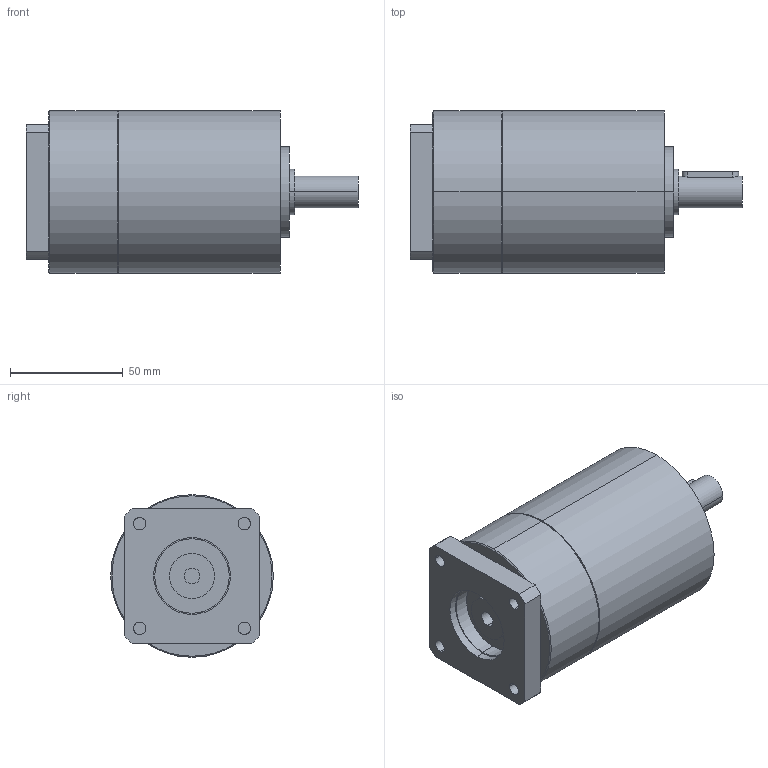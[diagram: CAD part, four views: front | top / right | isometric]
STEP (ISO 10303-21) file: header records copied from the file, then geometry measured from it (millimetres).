
FILE_DESCRIPTION(('CoCreate Modeling STEP Export'),'2;1');
FILE_NAME('GPT75_ig-9-12-16-20-25-28-35-40-50-70-100_14_B14T_7_P26.stp','2014-08-27T13:23:33',(''),(''),'CoCreate Modeling STEP processor for AP214 (Solid Model)','CoCreate Modeling 16.00C 25-Feb-2009 (C) Parametric Technology GmbH','');
FILE_SCHEMA(('AUTOMOTIVE_DESIGN { 1 0 10303 214 1 1 1 1 }'));
Length unit declared in the file: millimetre
Products named in the file (2): GPT75_ig-9-12-16-20-25-28-35-40-50-70-100_14_B14T_7_P26
Assembly tree (1 placements, depth 2):
  GPT75_ig-9-12-16-20-25-28-35-40-50-70-100_14_B14T_7_P26
    GPT75_ig-9-12-16-20-25-28-35-40-50-70-100_14_B14T_7_P26
Bounding box: 147 x 72 x 72 mm (x, y, z)
Volume: 452570.8 mm3; surface area: 39603.5 mm2
Topology: 1 solids, 1 shells, 80 faces, 183 edges, 118 vertices
Faces by surface type: cylinder 42, plane 34, cone 4
Entity records: 2266 total; most frequent: CARTESIAN_POINT 674, ORIENTED_EDGE 366, DIRECTION 268, EDGE_CURVE 183, VERTEX_POINT 118, AXIS2_PLACEMENT_3D 100, EDGE_LOOP 97, FACE_OUTER_BOUND 80
